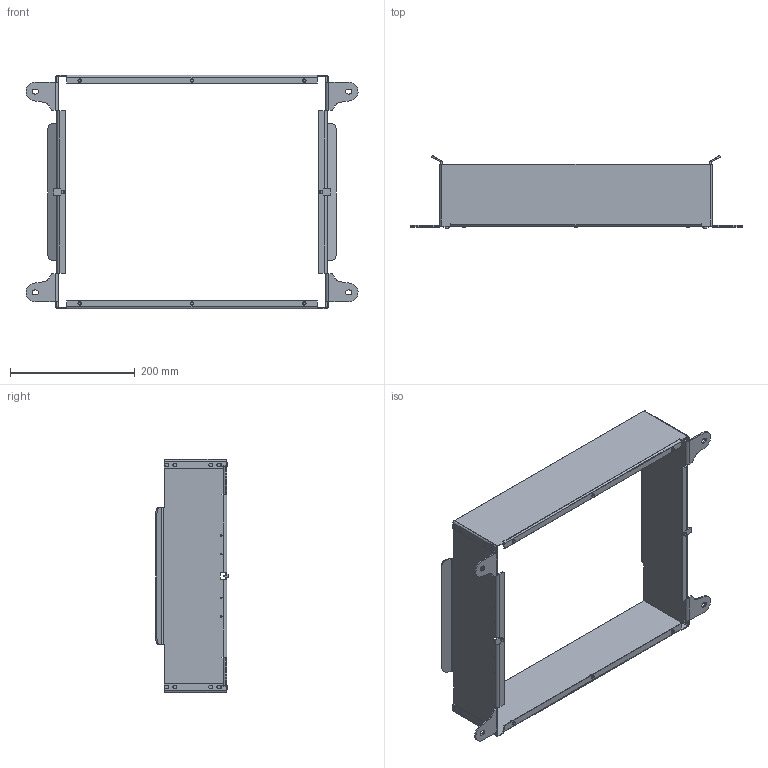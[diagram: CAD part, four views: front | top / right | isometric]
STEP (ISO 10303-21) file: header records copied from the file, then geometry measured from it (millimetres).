
FILE_DESCRIPTION (( 'STEP AP214' ), '1' );
FILE_NAME ('Asyril_PLATFORM FRAME H=100mm - 530_000.102.655_(option).STEP', '2019-10-17T13:31:50', ( 'Standard' ), ( '' ), 'SwSTEP 2.0', 'SolidWorks 2017', '' );
FILE_SCHEMA (( 'AUTOMOTIVE_DESIGN' ));
Length unit declared in the file: millimetre
Products named in the file (1): Asyril_PLATFORM FRAME H=100mm - 530_000.102.655_(option)
Bounding box: 531.9 x 116.51 x 374 mm (x, y, z)
Volume: 385946.2 mm3; surface area: 390017.1 mm2
Topology: 1 solids, 1 shells, 442 faces, 1082 edges, 668 vertices
Faces by surface type: plane 220, cylinder 190, torus 16, cone 16
Entity records: 14298 total; most frequent: DIRECTION 2412, CARTESIAN_POINT 2193, ORIENTED_EDGE 2164, EDGE_CURVE 1082, AXIS2_PLACEMENT_3D 887, VERTEX_POINT 668, VECTOR 638, LINE 638
